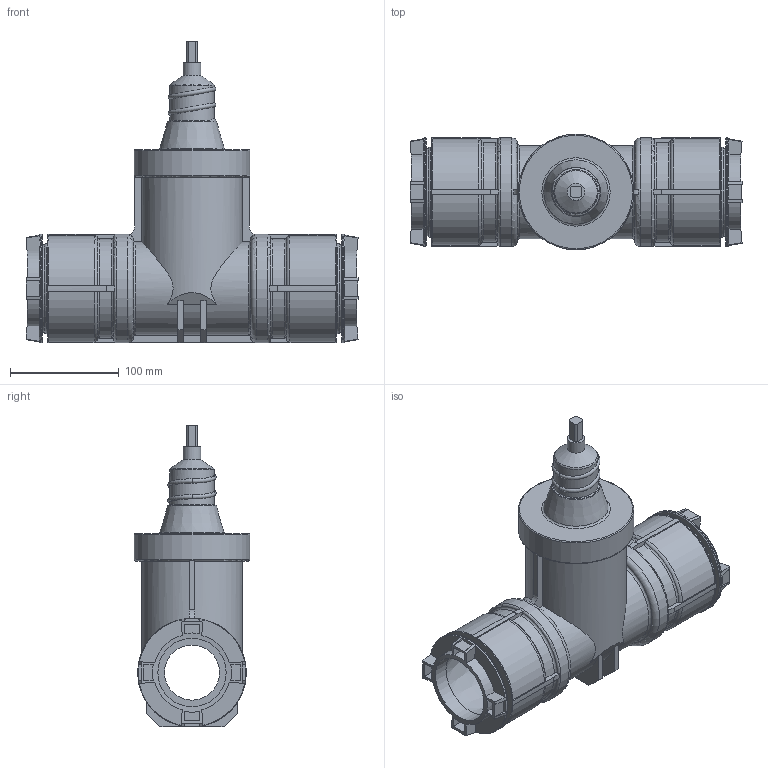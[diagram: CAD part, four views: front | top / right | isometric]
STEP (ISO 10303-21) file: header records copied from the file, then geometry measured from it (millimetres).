
FILE_DESCRIPTION( ( 'STEP AP203' ), '1' );
FILE_NAME( 'p:/temp/worker_202/temp/exporttempdir_1932_101_rwjPn/format_0/5003299 2631 DN2 (400).stp', '2021-01-13T08:17:33', ( 'License CC BY-ND 4.0' ), ( 'CADENAS' ), ' ', 'PARTsolutions', ' ' );
FILE_SCHEMA( ( 'CONFIG_CONTROL_DESIGN' ) );
Length unit declared in the file: millimetre
Products named in the file (1): _5003299 2631 DN2 (400)
Bounding box: 306 x 106.54 x 278 mm (x, y, z)
Volume: 1841813 mm3; surface area: 238444.7 mm2
Topology: 1 solids, 1 shells, 292 faces, 799 edges, 524 vertices
Faces by surface type: plane 171, cylinder 64, torus 49, cone 8
Full cylindrical faces by diameter (mm): 16 x1, 40.84 x2, 50.8 x1, 63 x4, 83 x2, 100 x6, 106.54 x1
Entity records: 10618 total; most frequent: CARTESIAN_POINT 3682, ORIENTED_EDGE 1482, DIRECTION 1322, EDGE_CURVE 741, VERTEX_POINT 508, AXIS2_PLACEMENT_3D 502, EDGE_LOOP 347, FACE_OUTER_BOUND 320
